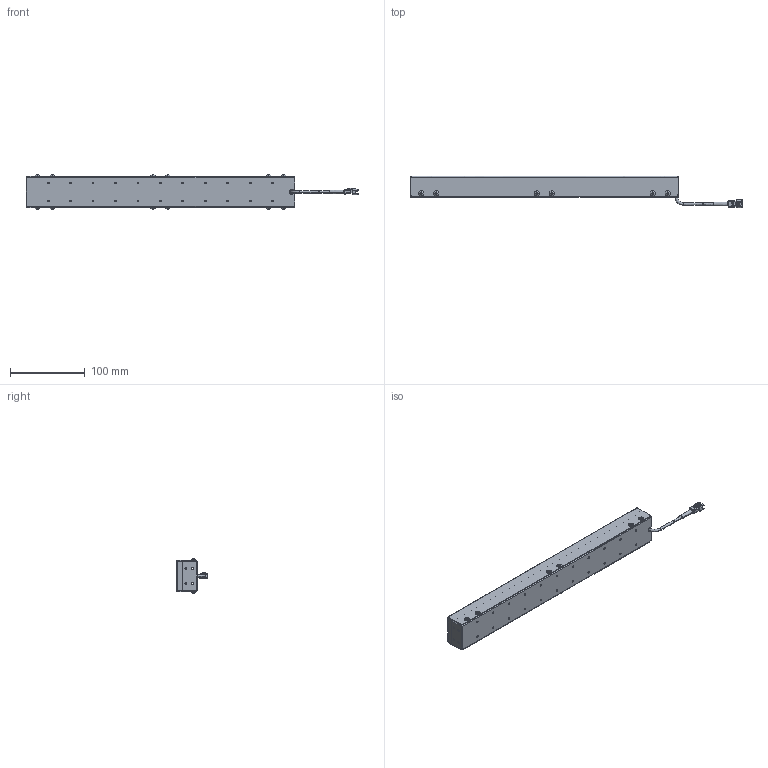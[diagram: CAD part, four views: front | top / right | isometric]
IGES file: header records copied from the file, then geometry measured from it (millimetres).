
Start section: SolidWorks IGES file using NURBS representation for surfaces
Bounding box: 443.25 x 42.25 x 45.6 mm (x, y, z)
Surface area: 101524.1 mm2 (no closed solid volume)
Topology: 0 solids, 0 shells, 780 faces, 9764 edges, 9710 vertices
Faces by surface type: bspline 780
